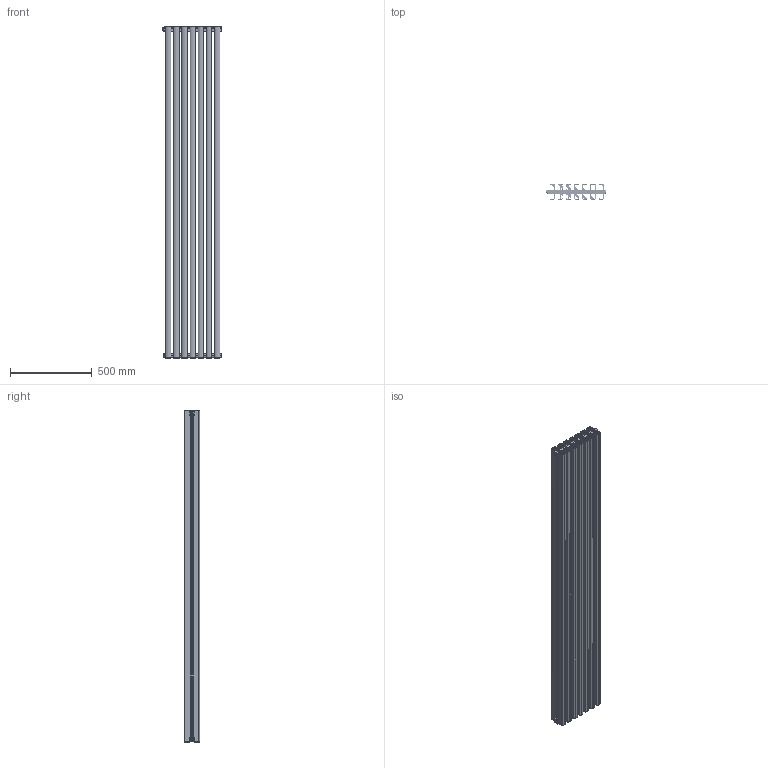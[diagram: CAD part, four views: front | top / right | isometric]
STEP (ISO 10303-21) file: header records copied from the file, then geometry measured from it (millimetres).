
FILE_DESCRIPTION (( 'STEP AP214' ), '1' );
FILE_NAME ('TONALE 2000_7.STEP', '2024-07-22T08:38:39', ( '' ), ( '' ), 'SwSTEP 2.0', 'SolidWorks 2024', '' );
FILE_SCHEMA (( 'AUTOMOTIVE_DESIGN' ));
Length unit declared in the file: millimetre
Products named in the file (12): Coperchietto; ETV600G_foro Ø 4; EPC10022D_1000; TONALE 2000_7; P3EL00002A_2000; Art.011; O-RING 2,4 D16,3; P3EL00004A_7 ELEMENTI CENTRALE; Art.041; P3EL00004A_7 elementi CS; Assieme vitone con o_ring
Assembly tree (39 placements, depth 3):
  TONALE 2000_7
    EPC10022D_1000  x7
    Art.011  x3
      Art.011
      Coperchietto
    Art.041
    P3EL00002A_2000  x7
    P3EL00004A_7 elementi CS
    Assieme vitone con o_ring  x14
      ETV600G_foro Ø 4
      O-RING 2,4 D16,3
    P3EL00004A_7 ELEMENTI CENTRALE
Bounding box: 366.3 x 95 x 2037 mm (x, y, z)
Volume: 8416783.7 mm3; surface area: 10298480.3 mm2
Topology: 68 solids, 68 shells, 4252 faces, 11702 edges, 7452 vertices
Faces by surface type: plane 1830, cylinder 1752, cone 391, torus 131, bspline 120, sphere 28
Entity records: 32301 total; most frequent: CARTESIAN_POINT 11683, ORIENTED_EDGE 4250, DIRECTION 4207, EDGE_CURVE 2125, AXIS2_PLACEMENT_3D 1483, VERTEX_POINT 1377, VECTOR 1241, LINE 1241
